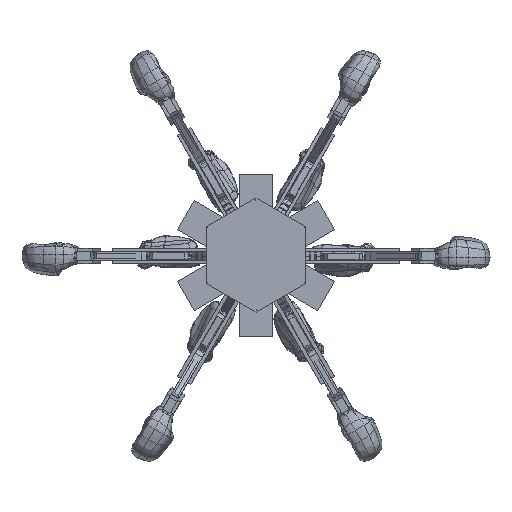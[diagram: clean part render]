
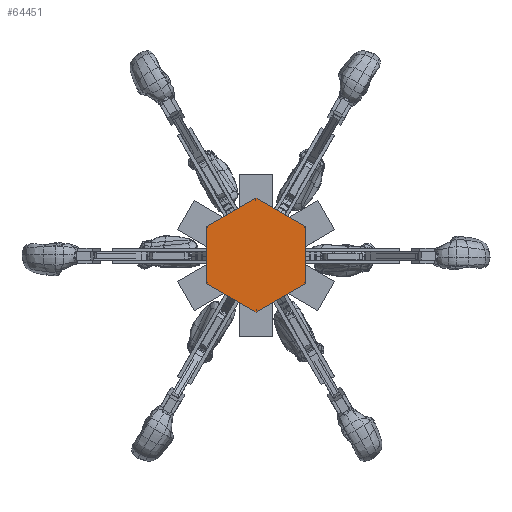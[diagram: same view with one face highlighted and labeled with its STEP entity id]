
A CAD part, top view. The second image highlights one B-rep face of the part: STEP entity #64451.
In plain terms, the highlighted planar face has unit normal (0, 0, 1).
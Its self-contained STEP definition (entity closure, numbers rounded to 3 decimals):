
#10524=FACE_OUTER_BOUND('',#15321,.T.);
#15321=EDGE_LOOP('',(#50046,#50047,#50048,#50049,#50050,#50051));
#20661=LINE('',#96513,#24607);
#20665=LINE('',#96520,#24611);
#20668=LINE('',#96526,#24614);
#20671=LINE('',#96532,#24617);
#20674=LINE('',#96538,#24620);
#20676=LINE('',#96541,#24622);
#24607=VECTOR('',#82257,10.);
#24611=VECTOR('',#82263,10.);
#24614=VECTOR('',#82268,10.);
#24617=VECTOR('',#82273,10.);
#24620=VECTOR('',#82278,10.);
#24622=VECTOR('',#82282,10.);
#28818=VERTEX_POINT('',#96510);
#28819=VERTEX_POINT('',#96512);
#28821=VERTEX_POINT('',#96518);
#28823=VERTEX_POINT('',#96524);
#28825=VERTEX_POINT('',#96530);
#28827=VERTEX_POINT('',#96536);
#36023=EDGE_CURVE('',#28819,#28818,#20661,.T.);
#36027=EDGE_CURVE('',#28818,#28821,#20665,.T.);
#36030=EDGE_CURVE('',#28821,#28823,#20668,.T.);
#36033=EDGE_CURVE('',#28823,#28825,#20671,.T.);
#36036=EDGE_CURVE('',#28825,#28827,#20674,.T.);
#36038=EDGE_CURVE('',#28827,#28819,#20676,.T.);
#50046=ORIENTED_EDGE('',*,*,#36038,.T.);
#50047=ORIENTED_EDGE('',*,*,#36023,.T.);
#50048=ORIENTED_EDGE('',*,*,#36027,.T.);
#50049=ORIENTED_EDGE('',*,*,#36030,.T.);
#50050=ORIENTED_EDGE('',*,*,#36033,.T.);
#50051=ORIENTED_EDGE('',*,*,#36036,.T.);
#58105=PLANE('',#70122);
#64451=ADVANCED_FACE('',(#10524),#58105,.F.);
#70122=AXIS2_PLACEMENT_3D('',#96543,#82285,#82286);
#82257=DIRECTION('',(0.,1.,0.));
#82263=DIRECTION('',(-0.866,0.5,0.));
#82268=DIRECTION('',(-0.866,-0.5,0.));
#82273=DIRECTION('',(0.,-1.,0.));
#82278=DIRECTION('',(0.866,-0.5,0.));
#82282=DIRECTION('',(0.866,0.5,0.));
#82285=DIRECTION('center_axis',(0.,0.,
-1.));
#82286=DIRECTION('ref_axis',(0.,1.,0.));
#96510=CARTESIAN_POINT('',(175.,101.036,1027.5));
#96512=CARTESIAN_POINT('',(175.,-101.036,1027.5));
#96513=CARTESIAN_POINT('',(175.,-101.036,1027.5));
#96518=CARTESIAN_POINT('',(0.,202.073,1027.5));
#96520=CARTESIAN_POINT('',(175.,101.036,1027.5));
#96524=CARTESIAN_POINT('',(-175.,101.036,1027.5));
#96526=CARTESIAN_POINT('',(0.,202.073,1027.5));
#96530=CARTESIAN_POINT('',(-175.,-101.036,1027.5));
#96532=CARTESIAN_POINT('',(-175.,101.036,1027.5));
#96536=CARTESIAN_POINT('',(0.,-202.073,1027.5));
#96538=CARTESIAN_POINT('',(-175.,-101.036,1027.5));
#96541=CARTESIAN_POINT('',(0.,-202.073,1027.5));
#96543=CARTESIAN_POINT('Origin',(0.,0.,
1027.5));
